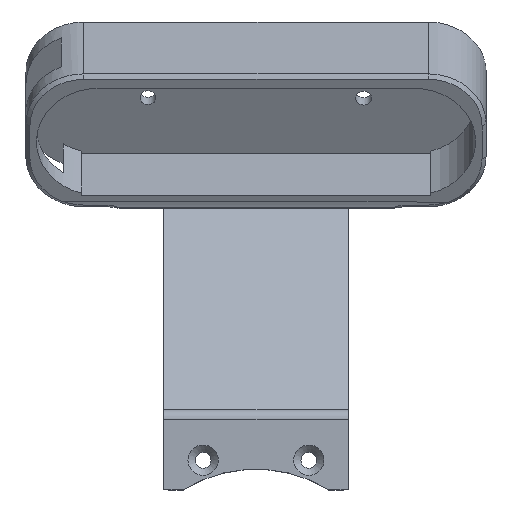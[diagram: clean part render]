
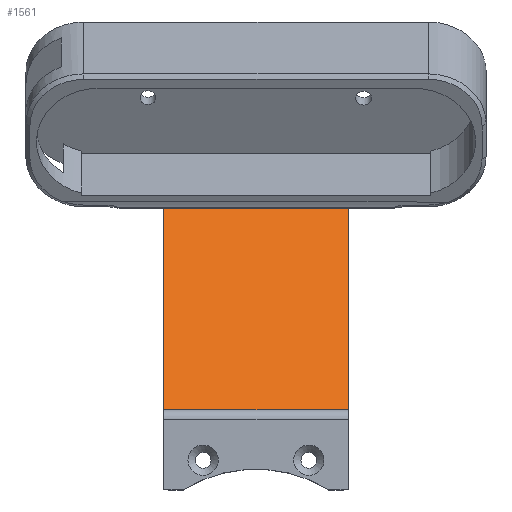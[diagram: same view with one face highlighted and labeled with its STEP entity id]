
A CAD part, top view. The second image highlights one B-rep face of the part: STEP entity #1561.
In plain terms, the highlighted planar face has unit normal (0, 0.61, 0.792).
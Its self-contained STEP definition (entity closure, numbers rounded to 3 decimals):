
#128=PLANE('',#1721);
#213=FACE_OUTER_BOUND('',#313,.T.);
#313=EDGE_LOOP('',(#1454,#1455,#1456,#1457));
#496=LINE('',#2945,#642);
#500=LINE('',#2952,#646);
#512=LINE('',#2975,#658);
#513=LINE('',#2977,#659);
#642=VECTOR('',#2107,10.);
#646=VECTOR('',#2113,10.);
#658=VECTOR('',#2135,10.);
#659=VECTOR('',#2138,10.);
#792=VERTEX_POINT('',#2943);
#793=VERTEX_POINT('',#2944);
#794=VERTEX_POINT('',#2949);
#801=VERTEX_POINT('',#2973);
#1004=EDGE_CURVE('',#792,#793,#496,.T.);
#1008=EDGE_CURVE('',#792,#794,#500,.T.);
#1020=EDGE_CURVE('',#793,#801,#512,.T.);
#1021=EDGE_CURVE('',#801,#794,#513,.T.);
#1454=ORIENTED_EDGE('',*,*,#1021,.F.);
#1455=ORIENTED_EDGE('',*,*,#1020,.F.);
#1456=ORIENTED_EDGE('',*,*,#1004,.F.);
#1457=ORIENTED_EDGE('',*,*,#1008,.T.);
#1561=ADVANCED_FACE('',(#213),#128,.T.);
#1721=AXIS2_PLACEMENT_3D('',#2976,#2136,#2137);
#2107=DIRECTION('',(-1.,0.,0.));
#2113=DIRECTION('',(0.,0.792,-0.61));
#2135=DIRECTION('',(0.,0.792,-0.61));
#2136=DIRECTION('center_axis',(0.,0.61,0.792));
#2137=DIRECTION('ref_axis',(1.,0.,0.));
#2138=DIRECTION('',(1.,0.,0.));
#2943=CARTESIAN_POINT('',(19.185,-74.217,27.033));
#2944=CARTESIAN_POINT('',(-19.213,-74.217,27.033));
#2945=CARTESIAN_POINT('',(-9.614,-74.217,27.033));
#2949=CARTESIAN_POINT('',(19.185,-28.749,-7.978));
#2952=CARTESIAN_POINT('',(19.185,-74.217,27.033));
#2973=CARTESIAN_POINT('',(-19.213,-28.749,-7.978));
#2975=CARTESIAN_POINT('',(-19.213,-74.217,27.033));
#2976=CARTESIAN_POINT('Origin',(-19.213,-74.217,27.033));
#2977=CARTESIAN_POINT('',(-9.614,-28.749,-7.978));
